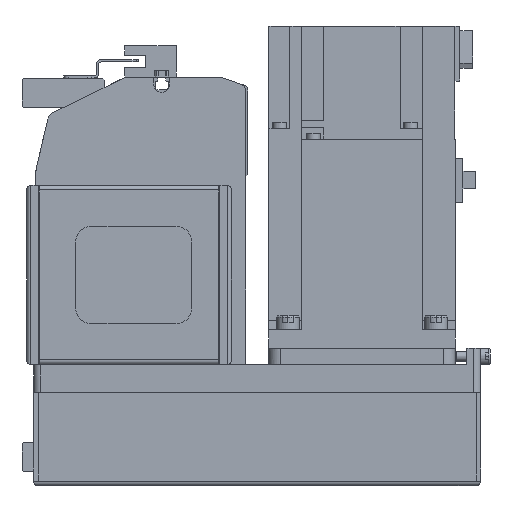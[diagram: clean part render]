
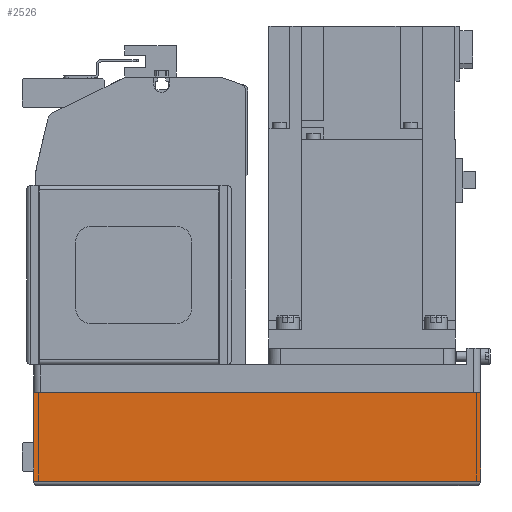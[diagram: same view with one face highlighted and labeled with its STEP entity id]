
A CAD part, left-side view. The second image highlights one B-rep face of the part: STEP entity #2526.
In plain terms, the highlighted planar face has unit normal (-1, 0, 0) as drawn and (0, 1, 0) by its records, which use the part's own axes.
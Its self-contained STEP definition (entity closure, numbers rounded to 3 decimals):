
#2526 = ADVANCED_FACE( '', ( #5409 ), #5410, .T. );
#5409 = FACE_OUTER_BOUND( '', #8593, .T. );
#5410 = PLANE( '', #8594 );
#8593 = EDGE_LOOP( '', ( #15733, #15734, #15735, #15736 ) );
#8594 = AXIS2_PLACEMENT_3D( '', #15737, #15738, #15739 );
#15733 = ORIENTED_EDGE( '', *, *, #19372, .F. );
#15734 = ORIENTED_EDGE( '', *, *, #21163, .F. );
#15735 = ORIENTED_EDGE( '', *, *, #21164, .T. );
#15736 = ORIENTED_EDGE( '', *, *, #19873, .T. );
#15737 = CARTESIAN_POINT( '', ( -192., 40., -50. ) );
#15738 = DIRECTION( '', ( 0., 1., 0. ) );
#15739 = DIRECTION( '', ( 0., 0., 1. ) );
#19372 = EDGE_CURVE( '', #23609, #23611, #23612, .T. );
#19873 = EDGE_CURVE( '', #24391, #23611, #24392, .T. );
#21163 = EDGE_CURVE( '', #25819, #23609, #26171, .T. );
#21164 = EDGE_CURVE( '', #25819, #24391, #26172, .T. );
#23609 = VERTEX_POINT( '', #29419 );
#23611 = VERTEX_POINT( '', #29422 );
#23612 = LINE( '', #29423, #29424 );
#24391 = VERTEX_POINT( '', #30510 );
#24392 = LINE( '', #30511, #30512 );
#25819 = VERTEX_POINT( '', #32620 );
#26171 = LINE( '', #33259, #33260 );
#26172 = LINE( '', #33261, #33262 );
#29419 = CARTESIAN_POINT( '', ( 0., 40., -50. ) );
#29422 = CARTESIAN_POINT( '', ( 0., 40., -12.1 ) );
#29423 = CARTESIAN_POINT( '', ( 0., 40., -50. ) );
#29424 = VECTOR( '', #35477, 1000. );
#30510 = CARTESIAN_POINT( '', ( -192., 40., -12.1 ) );
#30511 = CARTESIAN_POINT( '', ( -192., 40., -12.1 ) );
#30512 = VECTOR( '', #36097, 1000. );
#32620 = CARTESIAN_POINT( '', ( -192., 40., -50. ) );
#33259 = CARTESIAN_POINT( '', ( -192., 40., -50. ) );
#33260 = VECTOR( '', #37573, 1000. );
#33261 = CARTESIAN_POINT( '', ( -192., 40., -50. ) );
#33262 = VECTOR( '', #37574, 1000. );
#35477 = DIRECTION( '', ( 0., 0., 1. ) );
#36097 = DIRECTION( '', ( 1., 0., 0. ) );
#37573 = DIRECTION( '', ( 1., 0., 0. ) );
#37574 = DIRECTION( '', ( 0., 0., 1. ) );
